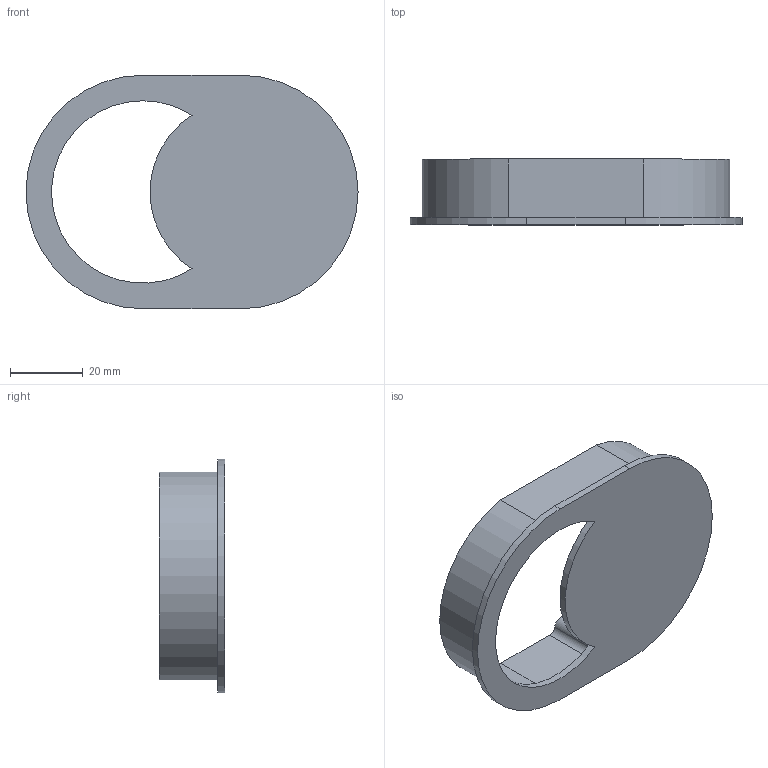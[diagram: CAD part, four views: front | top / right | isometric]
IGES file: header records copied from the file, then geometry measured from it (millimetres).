
Start section: Data from Parasolid IGES Translator 15.0.47, Copyright(c) 2006 Siemens P LM Software. All Rights Reserved.
Global section: file name: 9145715.igs; native system:  By UGS Corp.; preprocessor: XPlus GENERIC/IGES 3.0; author: Noname; organization: Noname; date: 20140122.173653; units: millimetre
Bounding box: 91 x 18 x 64 mm (x, y, z)
Surface area: 15783.4 mm2 (no closed solid volume)
Topology: 0 solids, 0 shells, 32 faces, 156 edges, 156 vertices
Faces by surface type: revolution 18, extrusion 14
